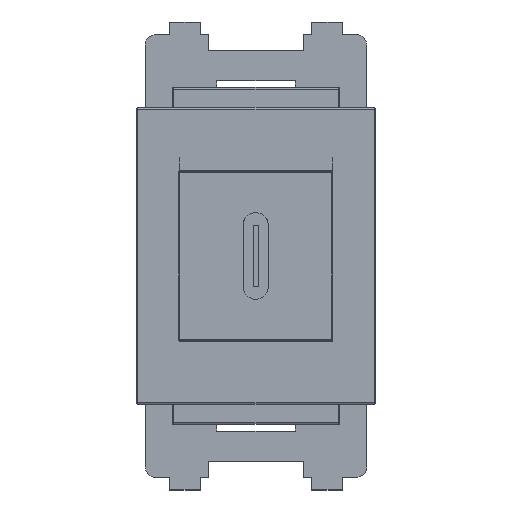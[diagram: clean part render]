
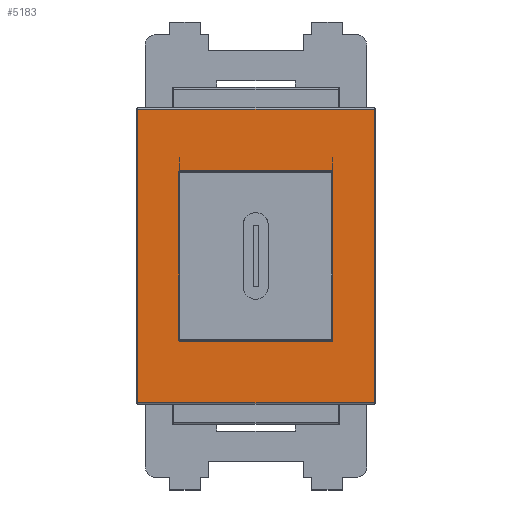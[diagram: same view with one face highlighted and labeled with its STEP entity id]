
A CAD part, top view. The second image highlights one B-rep face of the part: STEP entity #5183.
In plain terms, the highlighted free-form (B-spline) face has degree [1, 1] with [2, 2] control points.
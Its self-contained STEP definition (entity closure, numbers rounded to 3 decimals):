
#4210 = VERTEX_POINT('',#4211);
#4211 = CARTESIAN_POINT('',(22.504,-13.88,0.));
#4328 = VERTEX_POINT('',#4329);
#4329 = CARTESIAN_POINT('',(22.504,13.89,0.));
#4397 = EDGE_CURVE('',#4328,#4210,#4398,.T.);
#4398 = B_SPLINE_CURVE_WITH_KNOTS('',5,(#4399,#4400,#4401,#4402,#4403,
    #4404),.UNSPECIFIED.,.F.,.F.,(6,6),(0.,27.77),
  .PIECEWISE_BEZIER_KNOTS.);
#4399 = CARTESIAN_POINT('',(22.504,13.89,0.));
#4400 = CARTESIAN_POINT('',(22.504,8.336,0.));
#4401 = CARTESIAN_POINT('',(22.504,2.782,0.));
#4402 = CARTESIAN_POINT('',(22.504,-2.772,0.));
#4403 = CARTESIAN_POINT('',(22.504,-8.326,0.));
#4404 = CARTESIAN_POINT('',(22.504,-13.88,0.));
#4472 = VERTEX_POINT('',#4473);
#4473 = CARTESIAN_POINT('',(0.154,-13.88,0.));
#4590 = EDGE_CURVE('',#4210,#4472,#4591,.T.);
#4591 = B_SPLINE_CURVE_WITH_KNOTS('',5,(#4592,#4593,#4594,#4595,#4596,
    #4597),.UNSPECIFIED.,.F.,.F.,(6,6),(0.,22.35),
  .PIECEWISE_BEZIER_KNOTS.);
#4592 = CARTESIAN_POINT('',(22.504,-13.88,0.));
#4593 = CARTESIAN_POINT('',(18.034,-13.88,0.));
#4594 = CARTESIAN_POINT('',(13.564,-13.88,0.));
#4595 = CARTESIAN_POINT('',(9.094,-13.88,0.));
#4596 = CARTESIAN_POINT('',(4.624,-13.88,0.));
#4597 = CARTESIAN_POINT('',(0.154,-13.88,0.));
#4624 = VERTEX_POINT('',#4625);
#4625 = CARTESIAN_POINT('',(0.154,13.89,0.));
#4693 = EDGE_CURVE('',#4624,#4328,#4694,.T.);
#4694 = B_SPLINE_CURVE_WITH_KNOTS('',5,(#4695,#4696,#4697,#4698,#4699,
    #4700),.UNSPECIFIED.,.F.,.F.,(6,6),(0.,22.35),
  .PIECEWISE_BEZIER_KNOTS.);
#4695 = CARTESIAN_POINT('',(0.154,13.89,0.));
#4696 = CARTESIAN_POINT('',(4.624,13.89,0.));
#4697 = CARTESIAN_POINT('',(9.094,13.89,0.));
#4698 = CARTESIAN_POINT('',(13.564,13.89,0.));
#4699 = CARTESIAN_POINT('',(18.034,13.89,0.));
#4700 = CARTESIAN_POINT('',(22.504,13.89,0.));
#4758 = EDGE_CURVE('',#4472,#4624,#4759,.T.);
#4759 = B_SPLINE_CURVE_WITH_KNOTS('',5,(#4760,#4761,#4762,#4763,#4764,
    #4765),.UNSPECIFIED.,.F.,.F.,(6,6),(0.,27.77),
  .PIECEWISE_BEZIER_KNOTS.);
#4760 = CARTESIAN_POINT('',(0.154,-13.88,0.));
#4761 = CARTESIAN_POINT('',(0.154,-8.326,0.));
#4762 = CARTESIAN_POINT('',(0.154,-2.772,0.));
#4763 = CARTESIAN_POINT('',(0.154,2.782,0.));
#4764 = CARTESIAN_POINT('',(0.154,8.336,0.));
#4765 = CARTESIAN_POINT('',(0.154,13.89,0.));
#5183 = ADVANCED_FACE('',(#5184,#5190),#5236,.F.);
#5184 = FACE_BOUND('',#5185,.F.);
#5185 = EDGE_LOOP('',(#5186,#5187,#5188,#5189));
#5186 = ORIENTED_EDGE('',*,*,#4590,.T.);
#5187 = ORIENTED_EDGE('',*,*,#4758,.T.);
#5188 = ORIENTED_EDGE('',*,*,#4693,.T.);
#5189 = ORIENTED_EDGE('',*,*,#4397,.T.);
#5190 = FACE_BOUND('',#5191,.F.);
#5191 = EDGE_LOOP('',(#5192,#5205,#5216,#5227));
#5192 = ORIENTED_EDGE('',*,*,#5193,.T.);
#5193 = EDGE_CURVE('',#5194,#5196,#5198,.T.);
#5194 = VERTEX_POINT('',#5195);
#5195 = CARTESIAN_POINT('',(18.594,8.116,0.));
#5196 = VERTEX_POINT('',#5197);
#5197 = CARTESIAN_POINT('',(4.054,8.116,0.));
#5198 = B_SPLINE_CURVE_WITH_KNOTS('',5,(#5199,#5200,#5201,#5202,#5203,
    #5204),.UNSPECIFIED.,.F.,.F.,(6,6),(0.,14.54),
  .PIECEWISE_BEZIER_KNOTS.);
#5199 = CARTESIAN_POINT('',(18.594,8.116,0.));
#5200 = CARTESIAN_POINT('',(15.686,8.116,0.));
#5201 = CARTESIAN_POINT('',(12.778,8.116,0.));
#5202 = CARTESIAN_POINT('',(9.87,8.116,0.));
#5203 = CARTESIAN_POINT('',(6.962,8.116,0.));
#5204 = CARTESIAN_POINT('',(4.054,8.116,0.));
#5205 = ORIENTED_EDGE('',*,*,#5206,.T.);
#5206 = EDGE_CURVE('',#5196,#5207,#5209,.T.);
#5207 = VERTEX_POINT('',#5208);
#5208 = CARTESIAN_POINT('',(4.054,-8.104,0.));
#5209 = B_SPLINE_CURVE_WITH_KNOTS('',5,(#5210,#5211,#5212,#5213,#5214,
    #5215),.UNSPECIFIED.,.F.,.F.,(6,6),(0.,16.22),
  .PIECEWISE_BEZIER_KNOTS.);
#5210 = CARTESIAN_POINT('',(4.054,8.116,0.));
#5211 = CARTESIAN_POINT('',(4.054,4.872,0.));
#5212 = CARTESIAN_POINT('',(4.054,1.628,0.));
#5213 = CARTESIAN_POINT('',(4.054,-1.616,0.));
#5214 = CARTESIAN_POINT('',(4.054,-4.86,0.));
#5215 = CARTESIAN_POINT('',(4.054,-8.104,0.));
#5216 = ORIENTED_EDGE('',*,*,#5217,.T.);
#5217 = EDGE_CURVE('',#5207,#5218,#5220,.T.);
#5218 = VERTEX_POINT('',#5219);
#5219 = CARTESIAN_POINT('',(18.594,-8.104,0.));
#5220 = B_SPLINE_CURVE_WITH_KNOTS('',5,(#5221,#5222,#5223,#5224,#5225,
    #5226),.UNSPECIFIED.,.F.,.F.,(6,6),(0.,14.54),
  .PIECEWISE_BEZIER_KNOTS.);
#5221 = CARTESIAN_POINT('',(4.054,-8.104,0.));
#5222 = CARTESIAN_POINT('',(6.962,-8.104,0.));
#5223 = CARTESIAN_POINT('',(9.87,-8.104,0.));
#5224 = CARTESIAN_POINT('',(12.778,-8.104,0.));
#5225 = CARTESIAN_POINT('',(15.686,-8.104,0.));
#5226 = CARTESIAN_POINT('',(18.594,-8.104,0.));
#5227 = ORIENTED_EDGE('',*,*,#5228,.T.);
#5228 = EDGE_CURVE('',#5218,#5194,#5229,.T.);
#5229 = B_SPLINE_CURVE_WITH_KNOTS('',5,(#5230,#5231,#5232,#5233,#5234,
    #5235),.UNSPECIFIED.,.F.,.F.,(6,6),(0.,16.22),
  .PIECEWISE_BEZIER_KNOTS.);
#5230 = CARTESIAN_POINT('',(18.594,-8.104,0.));
#5231 = CARTESIAN_POINT('',(18.594,-4.86,0.));
#5232 = CARTESIAN_POINT('',(18.594,-1.616,0.));
#5233 = CARTESIAN_POINT('',(18.594,1.628,0.));
#5234 = CARTESIAN_POINT('',(18.594,4.872,0.));
#5235 = CARTESIAN_POINT('',(18.594,8.116,0.));
#5236 = B_SPLINE_SURFACE_WITH_KNOTS('',1,1,(
    (#5237,#5238)
    ,(#5239,#5240
    )),.UNSPECIFIED.,.F.,.F.,.F.,(2,2),(2,2),(0.,1.),(0.,1.242)
  ,.PIECEWISE_BEZIER_KNOTS.);
#5237 = CARTESIAN_POINT('',(22.504,-13.88,0.));
#5238 = CARTESIAN_POINT('',(22.504,13.89,0.));
#5239 = CARTESIAN_POINT('',(0.154,-13.88,0.));
#5240 = CARTESIAN_POINT('',(0.154,13.89,0.));
